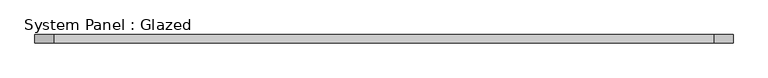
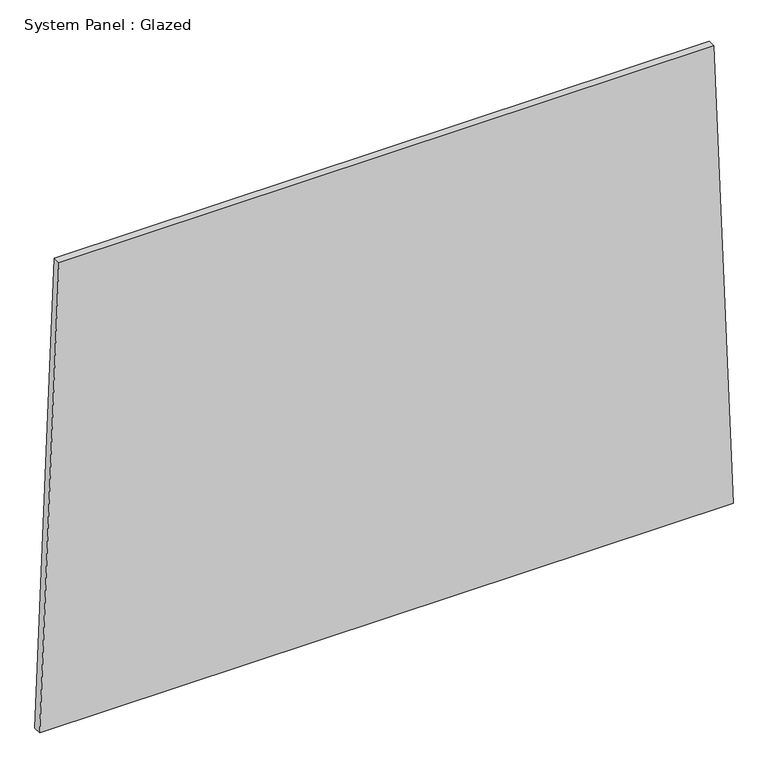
"""IFC4 building model written with IfcOpenShell, lengths in millimetres: plate geometry, System Panel : Glazed."""

import ifcopenshell
import ifcopenshell.guid

model = None  # the IFC model being written
_history = None  # IfcOwnerHistory: only IFC2X3 demands one
_inside = {}  # id of a spatial element -> (the spatial element, [elements in it])
_under = {}  # id of a project, library or spatial element -> (it, [spatial elements below it])
_declared = {}  # id of a project -> (the project, [libraries it declares])
_typed = {}  # id of a type object -> (the type object, [elements of that type])
_made_of = {}  # id of a material, layer set ... -> (it, [elements and type objects made of it])


def new_model(schema):
    """Start an empty IFC model of exactly this schema.

    Asked for "IFC4X3", IfcOpenShell would pick the latest addendum, in which some entities
    have other attributes; the version numbers below select the first issue.
    IFC2X3 requires an IfcOwnerHistory on every rooted entity: one is made here for all.
    """
    global model, _history
    if schema == "IFC4X3":
        model = ifcopenshell.file(schema_version=(4, 3, 0, 0))
    else:
        model = ifcopenshell.file(schema=schema)
    _inside.clear()
    _under.clear()
    _declared.clear()
    _typed.clear()
    _made_of.clear()
    _history = None
    if model.schema == "IFC2X3":
        org = make("IfcOrganization", Name="unknown")
        user = make(
            "IfcPersonAndOrganization",
            ThePerson=make("IfcPerson", FamilyName="unknown"),
            TheOrganization=org,
        )
        app = make(
            "IfcApplication",
            ApplicationDeveloper=org,
            Version="unknown",
            ApplicationFullName="unknown",
            ApplicationIdentifier="unknown",
        )
        _history = make(
            "IfcOwnerHistory",
            OwningUser=user,
            OwningApplication=app,
            ChangeAction="ADDED",
            CreationDate=0,
        )
    return model


def make(cls, **values):
    """One entity of the class cls with the attributes given. An attribute that is None is left unset."""
    return model.create_entity(
        cls, **{name: value for name, value in values.items() if value is not None}
    )


def rooted(cls, **values):
    """An entity with a GlobalId (a new one), such as an element, a storey or a relation."""
    return make(cls, GlobalId=ifcopenshell.guid.new(), OwnerHistory=_history, **values)


def si_unit(unit_type, name, prefix=None):
    """IfcSIUnit, for example si_unit("LENGTHUNIT", "METRE", prefix="MILLI")."""
    return make("IfcSIUnit", UnitType=unit_type, Prefix=prefix, Name=name)


def assignment(units):
    """IfcUnitAssignment: the units of a project."""
    return None if units is None else make("IfcUnitAssignment", Units=units)


def point(xyz):
    """IfcCartesianPoint."""
    return None if xyz is None else make("IfcCartesianPoint", Coordinates=xyz)


def direction(xyz):
    """IfcDirection."""
    return None if xyz is None else make("IfcDirection", DirectionRatios=xyz)


def frame(location, z_axis=None, x_axis=None):
    """IfcAxis2Placement3D, a coordinate frame: its origin and axes. An axis left out is left unset."""
    return make(
        "IfcAxis2Placement3D",
        Location=point(location),
        Axis=direction(z_axis),
        RefDirection=direction(x_axis),
    )


def origin():
    """The frame at (0, 0, 0) with its axes left unset."""
    return frame((0.0, 0.0, 0.0))


def place(relative_to, where):
    """IfcLocalPlacement: puts the frame where relative to a parent placement (None: the world)."""
    return make(
        "IfcLocalPlacement", PlacementRelTo=relative_to, RelativePlacement=where
    )


def context(
    kind, dimensions, precision=None, world=None, true_north=None, identifier=None
):
    """IfcGeometricRepresentationContext, for example the 3D "Model" context."""
    return make(
        "IfcGeometricRepresentationContext",
        ContextIdentifier=identifier,
        ContextType=kind,
        CoordinateSpaceDimension=dimensions,
        Precision=precision,
        WorldCoordinateSystem=world,
        TrueNorth=true_north,
    )


def project(units=None, contexts=None):
    """IfcProject with its units and contexts."""
    return rooted(
        "IfcProject",
        Name="project",
        RepresentationContexts=contexts,
        UnitsInContext=assignment(units),
    )


def spatial(cls, under=None, at=None, **own):
    """A site, building, storey or space (cls), placed at a placement, below another one or the project."""
    s = rooted(cls, ObjectPlacement=at, **own)
    if under is not None:
        _under.setdefault(under.id(), (under, []))[1].append(s)
    return s


def polyline(points):
    """IfcPolyline through the points."""
    return make("IfcPolyline", Points=[point(p) for p in points])


def outline(outer, holes=None, kind="AREA"):
    """IfcArbitraryClosedProfileDef: a profile drawn as a closed curve; with holes, ...WithVoids."""
    if holes is None:
        return make("IfcArbitraryClosedProfileDef", ProfileType=kind, OuterCurve=outer)
    return make(
        "IfcArbitraryProfileDefWithVoids",
        ProfileType=kind,
        OuterCurve=outer,
        InnerCurves=holes,
    )


def extrude(swept, where, along, depth):
    """IfcExtrudedAreaSolid: the profile swept, set in the frame where, extruded along a direction by depth."""
    return make(
        "IfcExtrudedAreaSolid",
        SweptArea=swept,
        Position=where,
        ExtrudedDirection=direction(along),
        Depth=depth,
    )


def shape(context_of_items, identifier, shape_type, items):
    """IfcShapeRepresentation: the items that make up one representation, for example the "Body"."""
    return make(
        "IfcShapeRepresentation",
        ContextOfItems=context_of_items,
        RepresentationIdentifier=identifier,
        RepresentationType=shape_type,
        Items=items,
    )


def source(mapping_origin, context_of_items, identifier, shape_type, items):
    """IfcRepresentationMap: a shape defined once, which mapped items show again and again."""
    return make(
        "IfcRepresentationMap",
        MappingOrigin=mapping_origin,
        MappedRepresentation=shape(context_of_items, identifier, shape_type, items),
    )


def transform(
    local_origin,
    x_axis=None,
    y_axis=None,
    z_axis=None,
    scale=None,
    scale2=None,
    scale3=None,
    uniform=True,
):
    """IfcCartesianTransformationOperator3D, or its non-uniform kind. x_axis, y_axis, z_axis: its Axis1, 2, 3."""
    if uniform:
        return make(
            "IfcCartesianTransformationOperator3D",
            Axis1=direction(x_axis),
            Axis2=direction(y_axis),
            LocalOrigin=point(local_origin),
            Scale=scale,
            Axis3=direction(z_axis),
        )
    return make(
        "IfcCartesianTransformationOperator3DnonUniform",
        Axis1=direction(x_axis),
        Axis2=direction(y_axis),
        LocalOrigin=point(local_origin),
        Scale=scale,
        Axis3=direction(z_axis),
        Scale2=scale2,
        Scale3=scale3,
    )


def mapped(mapping_source, mapping_target):
    """IfcMappedItem: shows the shape of a source again, moved by a transform."""
    return make(
        "IfcMappedItem", MappingSource=mapping_source, MappingTarget=mapping_target
    )


def made_of(thing, what):
    """Note that an element or type object is made of a material, layer set ...; save() writes the relation."""
    if what is not None:
        _made_of.setdefault(what.id(), (what, []))[1].append(thing)
    return thing


def element(
    cls,
    number,
    at=None,
    inside=None,
    cuts=None,
    type_object=None,
    material=None,
    context=None,
    identifier="Body",
    shape_type=None,
    held_by="IfcProductDefinitionShape",
    body=None,
    shapes=None,
    **own,
):
    """One element of the class cls, such as IfcWall. Its Tag is "e" and its number.

    at: its placement. inside: the storey or other place that contains it. cuts: it is an
    opening in that element (IfcRelVoidsElement). A single representation is given by context,
    identifier, shape_type and body (its items); several are given by shapes. held_by: the class
    of the entity that holds the representations. save() writes the other relations.
    """
    e = rooted(cls, Tag="e%d" % number, ObjectPlacement=at, **own)
    if body is not None:
        shapes = [shape(context, identifier, shape_type, body)]
    if shapes is not None:
        e.Representation = make(held_by, Representations=shapes)
    if inside is not None:
        _inside.setdefault(inside.id(), (inside, []))[1].append(e)
    if cuts is not None:
        rooted(
            "IfcRelVoidsElement", RelatingBuildingElement=cuts, RelatedOpeningElement=e
        )
    if type_object is not None:
        _typed.setdefault(type_object.id(), (type_object, []))[1].append(e)
    return made_of(e, material)


def aggregate(whole, parts):
    """IfcRelAggregates: a whole, such as a stair, and the parts it consists of."""
    return rooted("IfcRelAggregates", RelatingObject=whole, RelatedObjects=parts)


def save(model, path):
    """Write the relations noted so far, then the file.

    IfcRelAggregates (storeys below a building ...), IfcRelContainedInSpatialStructure (elements
    in a storey), IfcRelDefinesByType, IfcRelAssociatesMaterial and IfcRelDeclares: one each for
    every whole, place, type object, material and project.
    """
    for whole, parts in _under.values():
        aggregate(whole, parts)
    for where, things in _inside.values():
        rooted(
            "IfcRelContainedInSpatialStructure",
            RelatedElements=things,
            RelatingStructure=where,
        )
    for kind, things in _typed.values():
        rooted("IfcRelDefinesByType", RelatedObjects=things, RelatingType=kind)
    for what, things in _made_of.values():
        rooted("IfcRelAssociatesMaterial", RelatedObjects=things, RelatingMaterial=what)
    for by, libraries in _declared.values():
        rooted("IfcRelDeclares", RelatingContext=by, RelatedDefinitions=libraries)
    model.write(path)


def system_panel_glazed_edfc04ff(model_context):
    return source(origin(), model_context, "Body", "SweptSolid", [
        extrude(outline(polyline([(0.0, -1077.6307345), (0.0, 1077.6307345), (1522.82362, 1017.7623604), (1522.82362, -1017.7623604), (0.0, -1077.6307345)])), frame((0.0, -44.45, 0.0), z_axis=(0.0, 1.0, 0.0), x_axis=(0.0, 0.0, 1.0)), (0.0, 0.0, 1.0), 25.4),
    ])


if __name__ == "__main__":
    model = new_model("IFC4")
    model_context = context("Model", 3, world=origin())
    ifc_project = project(units=[si_unit("LENGTHUNIT", "METRE", prefix="MILLI")], contexts=[model_context])
    site = spatial("IfcSite", under=ifc_project)
    building = spatial("IfcBuilding", under=site)
    placement = place(None, origin())
    system_panel_glazed_shape = system_panel_glazed_edfc04ff(model_context)
    element("IfcPlate", 1, ObjectType="System Panel : Glazed", at=placement, inside=building, context=model_context, shape_type="MappedRepresentation", body=[
        mapped(system_panel_glazed_shape, transform((0.0, 0.0, 0.0), x_axis=(1.0, 0.0, 0.0), y_axis=(0.0, 1.0, 0.0), z_axis=(0.0, 0.0, 1.0))),
    ])
    save(model, "model.ifc")
